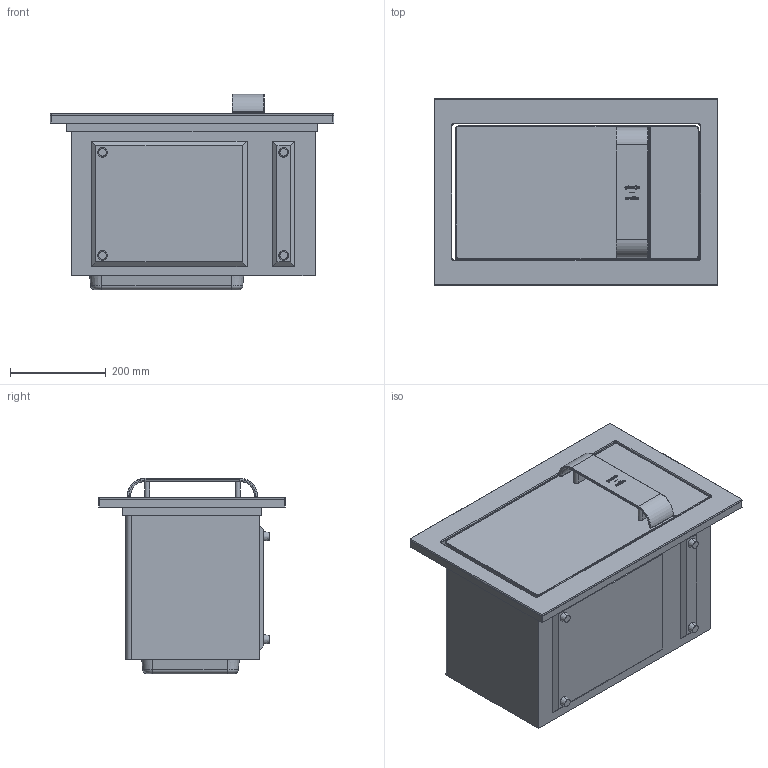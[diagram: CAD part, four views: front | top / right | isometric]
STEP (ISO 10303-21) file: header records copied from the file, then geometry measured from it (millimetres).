
FILE_DESCRIPTION (( 'STEP AP203' ), '1' );
FILE_NAME ('728171_BM235ORAW.STEP', '2017-03-20T10:46:18', ( '' ), ( '' ), 'SwSTEP 2.0', 'SolidWorks 2016', '' );
FILE_SCHEMA (( 'CONFIG_CONTROL_DESIGN' ));
Length unit declared in the file: millimetre
Products named in the file (14): 000_93085-GLASS_523A_21; 000_53214-CONTROL_PANEL_64; 000_handle MW^GorenjeOraIto2_handleMW_67mm-logo30mm; 000_53213-FACE_FRAME_61; 000_CAVITY_23L_ASM_6_ASM; 000_93091-CONTROL_GLASS_25; 000_GorenjeOraIto2_handleMW_67mm-1; FRONT PANEL_OI2-MW-BI; 000_523A_ASM_ASM_74_ASM; 251-60032-23000-10Y; 728171_BM235ORAW; 229-60020-C2000-10Y-1; 000_OI2-MW-BI
Assembly tree (13 placements, depth 5):
  728171_BM235ORAW
    000_OI2-MW-BI
      FRONT PANEL_OI2-MW-BI
        229-60020-C2000-10Y-1
        251-60032-23000-10Y
      000_523A_ASM_ASM_74_ASM
        000_93085-GLASS_523A_21
        000_93091-CONTROL_GLASS_25
        000_CAVITY_23L_ASM_6_ASM
          000_CAVITY_23L_ASM_6_ASM
        000_53213-FACE_FRAME_61
        000_53214-CONTROL_PANEL_64
        000_GorenjeOraIto2_handleMW_67mm-1
          000_handle MW^GorenjeOraIto2_handleMW_67mm-logo30mm
Bounding box: 592 x 390 x 407.97 mm (x, y, z)
Volume: 27051299.1 mm3; surface area: 2188193.4 mm2
Topology: 8 solids, 8 shells, 587 faces, 1520 edges, 980 vertices
Faces by surface type: bspline 228, plane 189, cylinder 94, torus 46, cone 26, sphere 4
Entity records: 22619 total; most frequent: CARTESIAN_POINT 8238, ORIENTED_EDGE 3032, DIRECTION 2050, EDGE_CURVE 1516, VERTEX_POINT 980, LINE 746, VECTOR 746, AXIS2_PLACEMENT_3D 652
